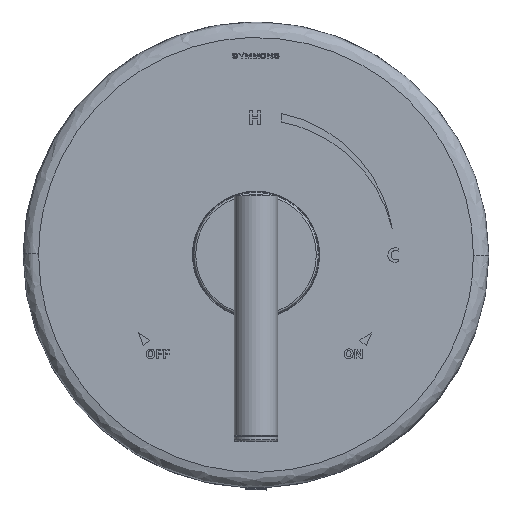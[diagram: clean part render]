
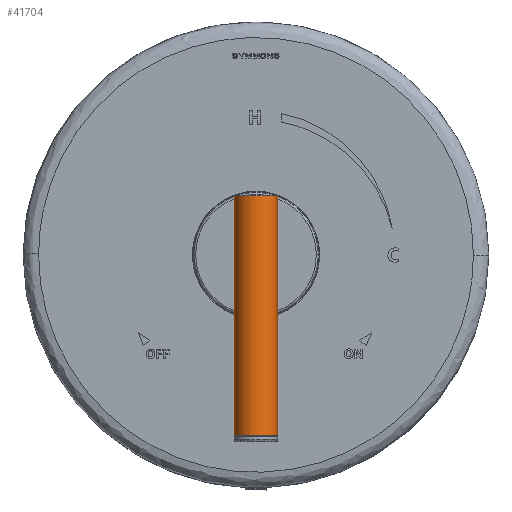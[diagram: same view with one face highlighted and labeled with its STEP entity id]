
A CAD part, top view. The second image highlights one B-rep face of the part: STEP entity #41704.
In plain terms, the highlighted cylindrical face has radius 8.89 mm (diameter 17.78 mm), a partial arc.
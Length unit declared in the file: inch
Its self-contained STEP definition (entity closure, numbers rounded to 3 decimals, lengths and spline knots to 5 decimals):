
#2336 = EDGE_CURVE ( 'NONE', #30426, #42852, #11393, .T. ) ;
#4082 = ORIENTED_EDGE ( 'NONE', *, *, #7066, .T. ) ;
#4760 = CYLINDRICAL_SURFACE ( 'NONE', #8088, 0.35 ) ;
#6706 = CARTESIAN_POINT ( 'NONE',  ( 1.61867, 4.68254, 7.38634 ) ) ;
#7066 = EDGE_CURVE ( 'NONE', #14760, #30426, #40260, .T. ) ;
#7271 = LINE ( 'NONE', #35675, #12202 ) ;
#7750 = CIRCLE ( 'NONE', #21713, 0.35 ) ;
#7972 = DIRECTION ( 'NONE',  ( 0., -1., 0. ) ) ;
#8088 = AXIS2_PLACEMENT_3D ( 'NONE', #12321, #7972, #11635 ) ;
#8454 = VECTOR ( 'NONE', #25616, 39.37008 ) ;
#8850 = CARTESIAN_POINT ( 'NONE',  ( 1.61867, 4.68254, 7.38634 ) ) ;
#10933 = DIRECTION ( 'NONE',  ( 0., -1., 0. ) ) ;
#11393 = CIRCLE ( 'NONE', #20950, 0.35 ) ;
#11635 = DIRECTION ( 'NONE',  ( 1., 0., 0. ) ) ;
#12202 = VECTOR ( 'NONE', #10933, 39.37008 ) ;
#12321 = CARTESIAN_POINT ( 'NONE',  ( 1.96867, 4.68254, 7.38634 ) ) ;
#14337 = CARTESIAN_POINT ( 'NONE',  ( 2.31867, 4.68254, 7.38634 ) ) ;
#14760 = VERTEX_POINT ( 'NONE', #6706 ) ;
#20950 = AXIS2_PLACEMENT_3D ( 'NONE', #22454, #33658, #36644 ) ;
#21713 = AXIS2_PLACEMENT_3D ( 'NONE', #44035, #33710, #26402 ) ;
#21794 = ORIENTED_EDGE ( 'NONE', *, *, #32937, .T. ) ;
#22454 = CARTESIAN_POINT ( 'NONE',  ( 1.96867, 0.82254, 7.38634 ) ) ;
#24130 = CARTESIAN_POINT ( 'NONE',  ( 1.61867, 0.82254, 7.38634 ) ) ;
#25616 = DIRECTION ( 'NONE',  ( 0., -1., 0. ) ) ;
#26402 = DIRECTION ( 'NONE',  ( 1., 0., 0. ) ) ;
#27304 = EDGE_LOOP ( 'NONE', ( #21794, #4082, #36293, #41253 ) ) ;
#30426 = VERTEX_POINT ( 'NONE', #24130 ) ;
#31746 = CARTESIAN_POINT ( 'NONE',  ( 2.31867, 0.82254, 7.38634 ) ) ;
#32937 = EDGE_CURVE ( 'NONE', #34165, #14760, #7750, .T. ) ;
#33486 = EDGE_CURVE ( 'NONE', #34165, #42852, #7271, .T. ) ;
#33658 = DIRECTION ( 'NONE',  ( 0., 1., 0. ) ) ;
#33710 = DIRECTION ( 'NONE',  ( 0., -1., 0. ) ) ;
#34165 = VERTEX_POINT ( 'NONE', #14337 ) ;
#35675 = CARTESIAN_POINT ( 'NONE',  ( 2.31867, 4.68254, 7.38634 ) ) ;
#36293 = ORIENTED_EDGE ( 'NONE', *, *, #2336, .T. ) ;
#36644 = DIRECTION ( 'NONE',  ( 1., 0., 0. ) ) ;
#40260 = LINE ( 'NONE', #8850, #8454 ) ;
#41253 = ORIENTED_EDGE ( 'NONE', *, *, #33486, .F. ) ;
#41704 = ADVANCED_FACE ( 'NONE', ( #42832 ), #4760, .T. ) ;
#42832 = FACE_OUTER_BOUND ( 'NONE', #27304, .T. ) ;
#42852 = VERTEX_POINT ( 'NONE', #31746 ) ;
#44035 = CARTESIAN_POINT ( 'NONE',  ( 1.96867, 4.68254, 7.38634 ) ) ;
